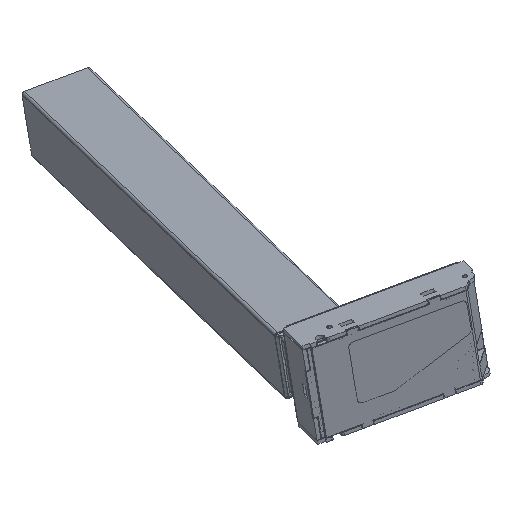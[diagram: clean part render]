
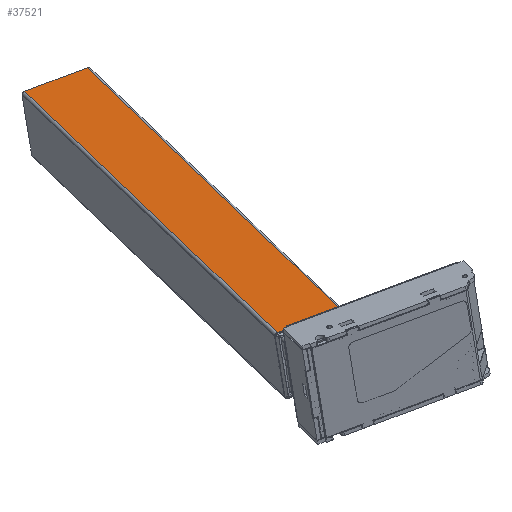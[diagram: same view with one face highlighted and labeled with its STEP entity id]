
A CAD part, isometric view. The second image highlights one B-rep face of the part: STEP entity #37521.
In plain terms, the highlighted planar face has unit normal (-0.048, 0.146, 0.988).
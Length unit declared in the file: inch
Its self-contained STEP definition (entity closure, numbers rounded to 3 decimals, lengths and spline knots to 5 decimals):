
#11067 = CARTESIAN_POINT ( 'NONE',  ( -12.4397, 12.46739, 38.86696 ) ) ;
#11474 = CARTESIAN_POINT ( 'NONE',  ( -12.32809, 12.43031, 38.87782 ) ) ;
#15077 = CARTESIAN_POINT ( 'NONE',  ( -12.4397, 12.46739, 38.86696 ) ) ;
#17595 = EDGE_CURVE ( 'NONE', #61345, #58211, #35707, .T. ) ;
#20275 = VECTOR ( 'NONE', #68297, 39.37008 ) ;
#21633 = VECTOR ( 'NONE', #48068, 39.37008 ) ;
#25722 = EDGE_CURVE ( 'NONE', #77573, #66220, #45838, .T. ) ;
#30095 = DIRECTION ( 'NONE',  ( -0.324, -0.938, 0.123 ) ) ;
#33436 = DIRECTION ( 'NONE',  ( 0.048, -0.146, -0.988 ) ) ;
#35707 = LINE ( 'NONE', #50270, #20275 ) ;
#37521 = ADVANCED_FACE ( 'NONE', ( #44979 ), #53103, .F. ) ;
#43202 = ORIENTED_EDGE ( 'NONE', *, *, #56519, .T. ) ;
#44288 = CARTESIAN_POINT ( 'NONE',  ( -3.24399, 31.06757, 36.56935 ) ) ;
#44979 = FACE_OUTER_BOUND ( 'NONE', #53800, .T. ) ;
#45838 = LINE ( 'NONE', #11067, #21633 ) ;
#47568 = ORIENTED_EDGE ( 'NONE', *, *, #17595, .T. ) ;
#48068 = DIRECTION ( 'NONE',  ( -0.945, 0.314, -0.092 ) ) ;
#48769 = ORIENTED_EDGE ( 'NONE', *, *, #25722, .F. ) ;
#49166 = LINE ( 'NONE', #11474, #54008 ) ;
#49194 = CARTESIAN_POINT ( 'NONE',  ( -5.62499, 31.85875, 36.33761 ) ) ;
#50270 = CARTESIAN_POINT ( 'NONE',  ( -5.7366, 31.89584, 36.32674 ) ) ;
#53039 = ORIENTED_EDGE ( 'NONE', *, *, #69771, .T. ) ;
#53103 = PLANE ( 'NONE',  #77769 ) ;
#53800 = EDGE_LOOP ( 'NONE', ( #48769, #43202, #47568, #53039 ) ) ;
#54008 = VECTOR ( 'NONE', #30095, 39.37008 ) ;
#55257 = CARTESIAN_POINT ( 'NONE',  ( -9.94709, 11.63913, 39.10956 ) ) ;
#56519 = EDGE_CURVE ( 'NONE', #77573, #61345, #72530, .T. ) ;
#58211 = VERTEX_POINT ( 'NONE', #49194 ) ;
#61345 = VERTEX_POINT ( 'NONE', #44288 ) ;
#66220 = VERTEX_POINT ( 'NONE', #66254 ) ;
#66254 = CARTESIAN_POINT ( 'NONE',  ( -12.32809, 12.43031, 38.87782 ) ) ;
#66993 = CARTESIAN_POINT ( 'NONE',  ( -9.94709, 11.63913, 39.10956 ) ) ;
#68297 = DIRECTION ( 'NONE',  ( -0.945, 0.314, -0.092 ) ) ;
#69771 = EDGE_CURVE ( 'NONE', #58211, #66220, #49166, .T. ) ;
#71598 = VECTOR ( 'NONE', #78652, 39.37008 ) ;
#72530 = LINE ( 'NONE', #66993, #71598 ) ;
#76607 = DIRECTION ( 'NONE',  ( 0.945, -0.314, 0.092 ) ) ;
#77573 = VERTEX_POINT ( 'NONE', #55257 ) ;
#77769 = AXIS2_PLACEMENT_3D ( 'NONE', #15077, #33436, #76607 ) ;
#78652 = DIRECTION ( 'NONE',  ( 0.324, 0.938, -0.123 ) ) ;
